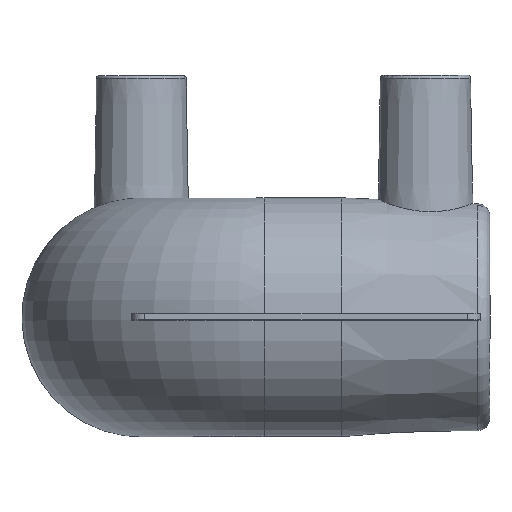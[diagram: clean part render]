
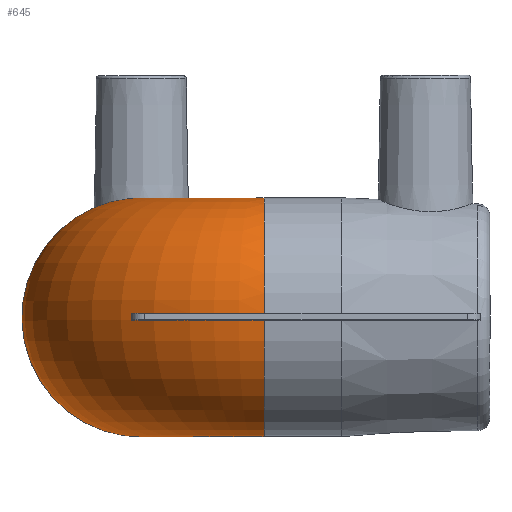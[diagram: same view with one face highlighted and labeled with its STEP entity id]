
A CAD part, top view. The second image highlights one B-rep face of the part: STEP entity #645.
In plain terms, the highlighted toroidal (fillet/blend) face has major radius 19 mm and minor radius 18.5 mm.
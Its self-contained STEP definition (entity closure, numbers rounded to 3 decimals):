
#73=TOROIDAL_SURFACE('',#714,19.,18.5);
#124=CIRCLE('',#713,18.5);
#125=CIRCLE('',#715,18.5);
#126=CIRCLE('',#716,37.493);
#127=CIRCLE('',#717,37.493);
#175=ORIENTED_EDGE('',*,*,#345,.F.);
#176=ORIENTED_EDGE('',*,*,#346,.T.);
#177=ORIENTED_EDGE('',*,*,#347,.F.);
#178=ORIENTED_EDGE('',*,*,#348,.F.);
#179=ORIENTED_EDGE('',*,*,#344,.T.);
#344=EDGE_CURVE('',#429,#429,#124,.F.);
#345=EDGE_CURVE('',#430,#431,#125,.F.);
#346=EDGE_CURVE('',#430,#432,#126,.T.);
#347=EDGE_CURVE('',#433,#432,#485,.T.);
#348=EDGE_CURVE('',#431,#433,#127,.T.);
#429=VERTEX_POINT('',#1087);
#430=VERTEX_POINT('',#1090);
#431=VERTEX_POINT('',#1091);
#432=VERTEX_POINT('',#1093);
#433=VERTEX_POINT('',#1098);
#485=B_SPLINE_CURVE_WITH_KNOTS('',3,(#1094,#1095,#1096,#1097),
 .UNSPECIFIED.,.F.,.F.,(4,4),(0.006,0.007),
 .UNSPECIFIED.);
#506=EDGE_LOOP('',(#175,#176,#177,#178));
#507=EDGE_LOOP('',(#179));
#576=FACE_BOUND('',#506,.T.);
#577=FACE_BOUND('',#507,.T.);
#645=ADVANCED_FACE('',(#576,#577),#73,.T.);
#713=AXIS2_PLACEMENT_3D('',#1086,#817,#818);
#714=AXIS2_PLACEMENT_3D('',#1088,#819,#820);
#715=AXIS2_PLACEMENT_3D('',#1089,#821,#822);
#716=AXIS2_PLACEMENT_3D('',#1092,#823,#824);
#717=AXIS2_PLACEMENT_3D('',#1099,#825,#826);
#817=DIRECTION('',(0.,0.,-1.));
#818=DIRECTION('',(1.,0.,0.));
#819=DIRECTION('',(0.,-1.,0.));
#820=DIRECTION('',(0.,0.,-1.));
#821=DIRECTION('',(-1.,0.,0.));
#822=DIRECTION('',(0.,0.,-1.));
#823=DIRECTION('',(0.,-1.,0.));
#824=DIRECTION('',(0.,0.,-1.));
#825=DIRECTION('',(0.,-1.,0.));
#826=DIRECTION('',(0.,0.,-1.));
#1086=CARTESIAN_POINT('',(0.,0.,35.));
#1087=CARTESIAN_POINT('',(18.5,0.,35.));
#1088=CARTESIAN_POINT('',(19.,0.,35.));
#1089=CARTESIAN_POINT('',(19.,0.,54.));
#1090=CARTESIAN_POINT('',(19.,-0.5,72.493));
#1091=CARTESIAN_POINT('',(19.,0.5,72.493));
#1092=CARTESIAN_POINT('',(19.,-0.5,35.));
#1093=CARTESIAN_POINT('',(7.5,-0.5,70.686));
#1094=CARTESIAN_POINT('',(7.5,0.5,70.686));
#1095=CARTESIAN_POINT('',(7.5,0.165,70.696));
#1096=CARTESIAN_POINT('',(7.5,-0.168,70.695));
#1097=CARTESIAN_POINT('',(7.5,-0.5,70.686));
#1098=CARTESIAN_POINT('',(7.5,0.5,70.686));
#1099=CARTESIAN_POINT('',(19.,0.5,35.));
